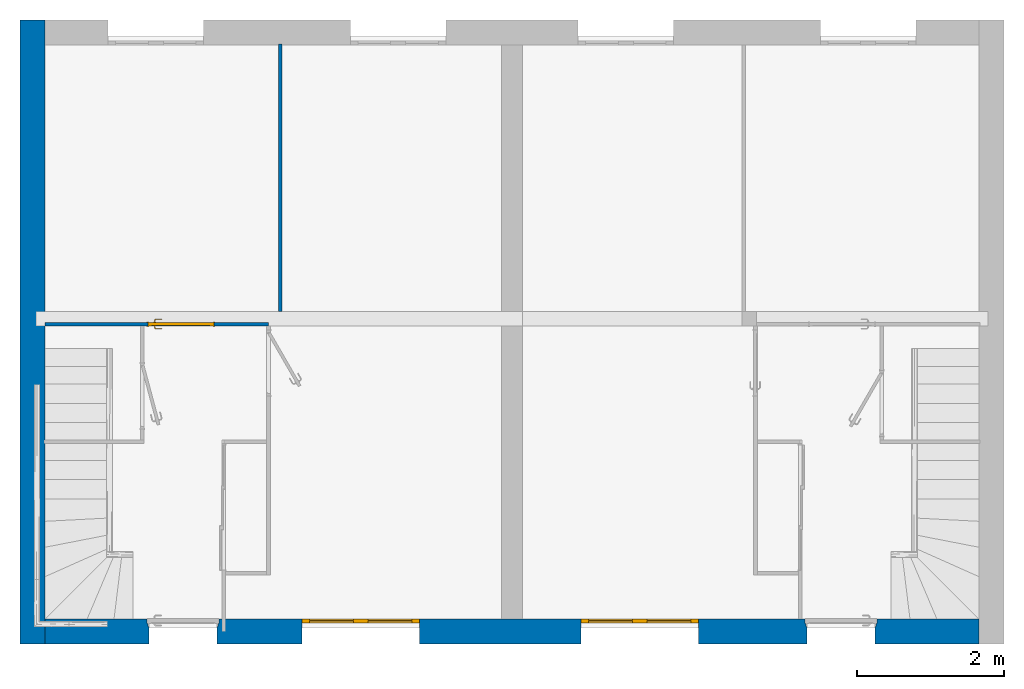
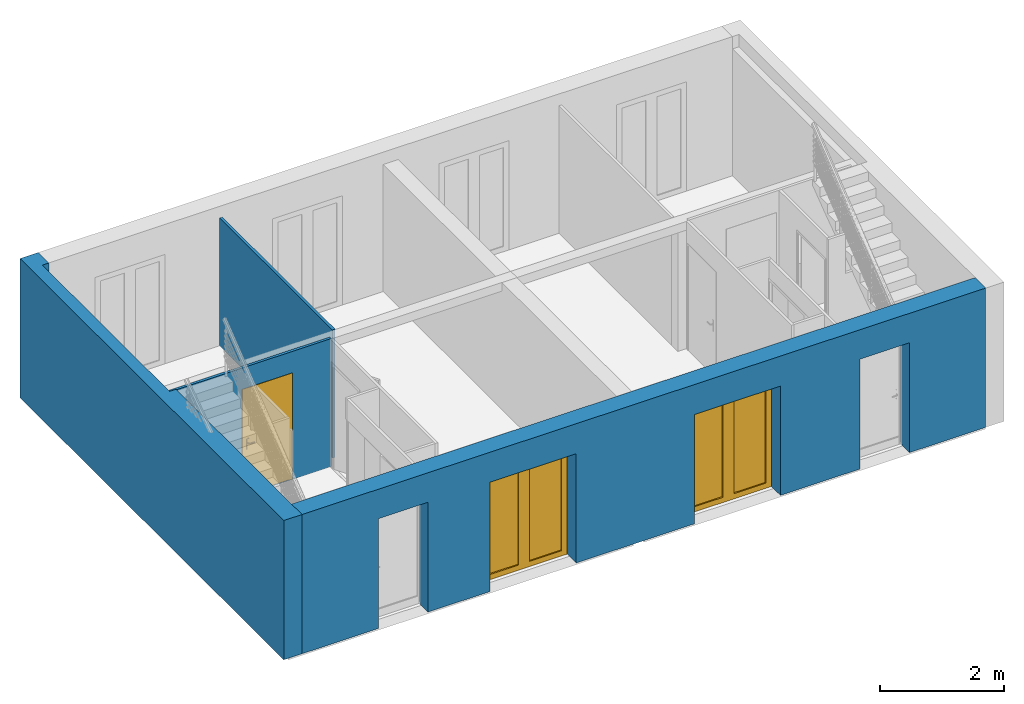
# One storey, part 2 of 9: 4 walls, 3 doors, 6 openings.
"""IFC2X3 building model written with IfcOpenShell, lengths in metres."""

from ifc_helpers import new_model, entity, si_unit, converted_unit, derived_unit, direction, frame, frame_2d, origin, origin_2d_with_axis, place, context, subcontext, project, spatial, polyline, rectangle, outline, extrude, faceted_brep, source, transform, mapped, material, material_list, layer, layer_set, layer_usage, type_object, type_shapes, element, fill, save


model = new_model("IFC2X3")

# Units and contexts
model_context = context("Model", 3, precision=1e-05, world=origin(), true_north=direction((6.12303176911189e-17, 1.0)))
body_context = subcontext(model_context, "Body", "Model", "MODEL_VIEW")
ifc_project = project(units=[si_unit("LENGTHUNIT", "METRE"), si_unit("AREAUNIT", "SQUARE_METRE"), si_unit("VOLUMEUNIT", "CUBIC_METRE"), converted_unit("PLANEANGLEUNIT", "DEGREE", entity("IfcRatioMeasure", 0.0174532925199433), si_unit("PLANEANGLEUNIT", "RADIAN"), dimensions=[0, 0, 0, 0, 0, 0, 0]), si_unit("MASSUNIT", "GRAM", prefix="KILO"), si_unit("TIMEUNIT", "SECOND"), si_unit("FREQUENCYUNIT", "HERTZ"), si_unit("THERMODYNAMICTEMPERATUREUNIT", "DEGREE_CELSIUS"), derived_unit("THERMALTRANSMITTANCEUNIT", [(si_unit("MASSUNIT", "GRAM", prefix="KILO"), 1), (si_unit("THERMODYNAMICTEMPERATUREUNIT", "KELVIN"), -1), (si_unit("TIMEUNIT", "SECOND"), -3)]), derived_unit("VOLUMETRICFLOWRATEUNIT", [(si_unit("LENGTHUNIT", "METRE"), 3), (si_unit("TIMEUNIT", "SECOND"), -1)]), si_unit("ELECTRICCURRENTUNIT", "AMPERE"), si_unit("ELECTRICVOLTAGEUNIT", "VOLT"), si_unit("POWERUNIT", "WATT"), si_unit("FORCEUNIT", "NEWTON", prefix="KILO"), si_unit("ILLUMINANCEUNIT", "LUX"), si_unit("LUMINOUSFLUXUNIT", "LUMEN"), si_unit("LUMINOUSINTENSITYUNIT", "CANDELA"), derived_unit("USERDEFINED", [(si_unit("MASSUNIT", "GRAM", prefix="KILO"), -1), (si_unit("LENGTHUNIT", "METRE"), -2), (si_unit("TIMEUNIT", "SECOND"), 3), (si_unit("LUMINOUSFLUXUNIT", "LUMEN"), 1)]), derived_unit("LINEARVELOCITYUNIT", [(si_unit("LENGTHUNIT", "METRE"), 1), (si_unit("TIMEUNIT", "SECOND"), -1)]), si_unit("PRESSUREUNIT", "PASCAL"), derived_unit("USERDEFINED", [(si_unit("LENGTHUNIT", "METRE"), -2), (si_unit("MASSUNIT", "GRAM", prefix="KILO"), 1), (si_unit("TIMEUNIT", "SECOND"), -2)])], contexts=[model_context])

# Site, building, storey
site_placement = place(None, origin())
site = spatial("IfcSite", under=ifc_project, at=site_placement, Name="Surface", CompositionType="ELEMENT")
building_placement = place(site_placement, origin())
building = spatial("IfcBuilding", under=site, at=building_placement, CompositionType="ELEMENT")
storey_placement = place(building_placement, origin())
storey = spatial("IfcBuildingStorey", under=building, at=storey_placement, Name="Rez de chaussée", CompositionType="ELEMENT", Elevation=0.0)

# Wall
ifc_material_1 = material(Name="Maçonnerie - Isolant(1)")
ifc_layer_1 = layer(ifc_material_1, 0.05)
ifc_layer_set_1 = layer_set([ifc_layer_1], Name="Mur de base:Int. plâtre 50 mm")
ifc_layer_usage_1 = layer_usage(ifc_layer_set_1, "AXIS2", "NEGATIVE", 0.025)
wall_type_1 = type_object("IfcWallType", Name="Mur de base:Int. plâtre 50 mm", PredefinedType="STANDARD", material=ifc_layer_set_1)
wall_1_placement = place(storey_placement, frame((-8.09108881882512, 5.35425578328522, -0.00999999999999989), z_axis=(0.0, 0.0, 1.0), x_axis=(0.0, -1.0, 0.0)))
element("IfcWallStandardCase", 1, at=wall_1_placement, inside=storey, type_object=wall_type_1, material=ifc_layer_usage_1, Name="Mur de base:Int. plâtre 50 mm", ObjectType="Mur de base:Int. plâtre 50 mm", context=body_context, shape_type="SweptSolid", body=[
    extrude(rectangle(XDim=3.64, YDim=0.0499999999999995, at=frame_2d((1.82, 0.0), x_axis=(-1.0, 0.0))), origin(), (0.0, 0.0, 1.0), 2.52),
])

# Wall, opening, door
ifc_layer_usage_2 = layer_usage(ifc_layer_set_1, "AXIS2", "NEGATIVE", 0.025)
wall_2_placement = place(storey_placement, frame((-11.2960888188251, 1.53925578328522, -0.00999999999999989)))
wall_2 = element("IfcWallStandardCase", 2, at=wall_2_placement, inside=storey, type_object=wall_type_1, material=ifc_layer_usage_2, Name="Mur de base:Int. plâtre 50 mm", ObjectType="Mur de base:Int. plâtre 50 mm", context=body_context, shape_type="SweptSolid", body=[
    extrude(rectangle(XDim=3.04499999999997, YDim=0.05, at=frame_2d((1.52249999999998, 0.0), x_axis=(-1.0, 0.0))), origin(), (0.0, 0.0, 1.0), 2.52),
])
opening_1_placement = place(wall_2_placement, frame((1.39999999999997, -0.025, 0.00999999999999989)))
opening_1 = element("IfcOpeningElement", 3, at=opening_1_placement, cuts=wall_2, Name="Int. Simple:PP (0.83m x 2.04m):1", ObjectType="Opening", context=body_context, shape_type="SweptSolid", body=[
    extrude(rectangle(XDim=2.075, YDim=0.9, at=frame_2d((1.0375, 0.45), x_axis=(1.0, 0.0))), frame((0.0, 0.0, 0.0), z_axis=(0.0, 1.0, 0.0), x_axis=(0.0, 0.0, 1.0)), (0.0, 0.0, 1.0), 0.05),
])
ifc_material_2 = material(Name="Finition Peinture - Blanc satiné")
ifc_material_3 = material(Name="Bois - Panneau de porte")
ifc_material_4 = material(Name="Bois - Cadre de porte")
ifc_material_list_1 = material_list([ifc_material_2, ifc_material_3, ifc_material_4])
ifc_material_list_2 = material_list([ifc_material_2, ifc_material_3, ifc_material_4])
door_style_1 = type_object("IfcDoorStyle", Name="PP (0.83m x 2.04m)", ConstructionType="NOTDEFINED", OperationType="SINGLE_SWING_RIGHT", ParameterTakesPrecedence=False, Sizeable=False, material=ifc_material_list_2)
shared_shape_1 = source(origin(), body_context, "Body", "Brep", [
    faceted_brep([(0.895000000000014, -0.00500000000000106, 0.870000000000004), (0.895000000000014, -0.00500000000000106, 1.08), (0.885352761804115, -0.00500000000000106, 1.08399601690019), (0.875000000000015, -0.00500000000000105, 1.08535898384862), (0.864647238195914, -0.00500000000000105, 1.08399601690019), (0.855000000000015, -0.00500000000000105, 1.08), (0.855000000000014, -0.00500000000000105, 0.870000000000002), (0.864647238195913, -0.00500000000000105, 0.866003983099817), (0.875000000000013, -0.00500000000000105, 0.86464101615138), (0.885352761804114, -0.00500000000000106, 0.866003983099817), (0.895000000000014, 0.0, 1.08), (0.895000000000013, 0.0, 0.870000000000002), (0.885352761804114, 0.0, 0.866003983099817), (0.875000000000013, 0.0, 0.86464101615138), (0.864647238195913, 0.0, 0.866003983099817), (0.855000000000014, 0.0, 0.870000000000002), (0.855000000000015, 0.0, 1.08), (0.864647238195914, 0.0, 1.08399601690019), (0.875000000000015, 0.0, 1.08535898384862), (0.885352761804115, 0.0, 1.08399601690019)], [[[0, 1, 2, 3, 4, 5, 6, 7, 8, 9]], [[10, 11, 12, 13, 14, 15, 16, 17, 18, 19]], [[9, 12, 11, 0]], [[8, 13, 12, 9]], [[7, 14, 13, 8]], [[7, 6, 15, 14]], [[15, 6, 5, 16]], [[4, 17, 16, 5]], [[3, 18, 17, 4]], [[2, 19, 18, 3]], [[2, 1, 10, 19]], [[11, 10, 1, 0]]]),
    faceted_brep([(0.895000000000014, 0.0399999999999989, 0.870000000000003), (0.895000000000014, 0.0399999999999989, 1.08), (0.885352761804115, 0.0399999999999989, 1.08399601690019), (0.875000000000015, 0.0399999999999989, 1.08535898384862), (0.864647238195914, 0.0399999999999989, 1.08399601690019), (0.855000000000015, 0.0399999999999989, 1.08), (0.855000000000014, 0.0399999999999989, 0.870000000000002), (0.864647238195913, 0.0399999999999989, 0.866003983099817), (0.875000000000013, 0.0399999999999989, 0.86464101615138), (0.885352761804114, 0.0399999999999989, 0.866003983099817), (0.875000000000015, 0.0449999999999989, 1.08535898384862), (0.885352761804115, 0.0449999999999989, 1.08399601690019), (0.895000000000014, 0.0449999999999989, 1.08), (0.895000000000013, 0.0449999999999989, 0.870000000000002), (0.885352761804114, 0.0449999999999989, 0.866003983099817), (0.875000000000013, 0.0449999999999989, 0.86464101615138), (0.864647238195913, 0.0449999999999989, 0.866003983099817), (0.855000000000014, 0.0449999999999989, 0.870000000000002), (0.855000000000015, 0.0449999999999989, 1.08), (0.864647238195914, 0.0449999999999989, 1.08399601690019)], [[[0, 1, 2, 3, 4, 5, 6, 7, 8, 9]], [[10, 11, 12, 13, 14, 15, 16, 17, 18, 19]], [[4, 19, 18, 5]], [[3, 10, 19, 4]], [[2, 11, 10, 3]], [[2, 1, 12, 11]], [[13, 12, 1, 0]], [[9, 14, 13, 0]], [[8, 15, 14, 9]], [[7, 16, 15, 8]], [[7, 6, 17, 16]], [[17, 6, 5, 18]]]),
    faceted_brep([(0.872974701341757, -0.0050000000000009, 1.00778044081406), (0.877025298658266, -0.00500000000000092, 1.00778044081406), (0.881000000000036, -0.00500000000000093, 1.00699999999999), (0.881000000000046, -0.00500000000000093, 0.992999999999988), (0.877025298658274, -0.00500000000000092, 0.99221955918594), (0.872974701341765, -0.0050000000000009, 0.992219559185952), (0.868999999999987, -0.00500000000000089, 0.993000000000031), (0.868999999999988, -0.00500000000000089, 1.007), (0.877025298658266, -0.0310045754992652, 1.00778044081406), (0.881000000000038, -0.0326509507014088, 1.007), (0.872974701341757, -0.0293267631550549, 1.00778044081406), (0.859298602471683, -0.0430028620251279, 1.00778044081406), (0.860976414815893, -0.0470534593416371, 1.00778044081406), (0.868999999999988, -0.0276803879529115, 1.007), (0.868999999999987, -0.0276803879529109, 0.993000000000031), (0.872974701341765, -0.0293267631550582, 0.992219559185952), (0.877025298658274, -0.0310045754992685, 0.99221955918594), (0.860976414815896, -0.047053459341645, 0.99221955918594), (0.859298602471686, -0.0430028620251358, 0.992219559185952), (0.881000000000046, -0.0326509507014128, 0.992999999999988), (0.862622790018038, -0.0510281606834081, 1.007), (0.85765222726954, -0.0390281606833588, 1.007), (0.857652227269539, -0.0390281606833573, 0.993000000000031), (0.862622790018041, -0.0510281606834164, 0.992999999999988), (0.774981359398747, -0.0510281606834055, 1.007), (0.774981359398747, -0.0470534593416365, 1.00778044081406), (0.774981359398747, -0.0430028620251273, 1.00778044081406), (0.774981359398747, -0.0390281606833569, 1.00699999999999), (0.774981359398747, -0.0390281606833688, 0.993000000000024), (0.774981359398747, -0.0430028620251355, 0.992219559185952), (0.774981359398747, -0.0470534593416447, 0.99221955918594), (0.774981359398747, -0.0510281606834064, 0.992999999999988), (0.81713998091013, -0.045028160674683, 1.0078786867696), (0.822692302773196, -0.051028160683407, 1.007), (0.816316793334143, -0.039028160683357, 1.007), (0.816316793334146, -0.0390281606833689, 0.993000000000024), (0.817139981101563, -0.0450281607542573, 0.992121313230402), (0.822692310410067, -0.0510281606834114, 0.992999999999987)], [[[0, 1, 2, 3, 4, 5, 6, 7]], [[2, 1, 8, 9]], [[1, 0, 10, 11, 12, 8]], [[0, 7, 13, 10]], [[14, 13, 7, 6]], [[5, 15, 14, 6]], [[5, 4, 16, 17, 18, 15]], [[3, 19, 16, 4]], [[9, 19, 3, 2]], [[9, 8, 12, 20]], [[10, 13, 21, 11]], [[22, 21, 13, 14]], [[14, 15, 18, 22]], [[16, 19, 23, 17]], [[20, 23, 19, 9]], [[24, 25, 26, 27, 28, 29, 30, 31]], [[32, 25, 33]], [[33, 25, 24]], [[33, 20, 12]], [[11, 34, 32]], [[34, 11, 21]], [[27, 26, 34]], [[32, 26, 25]], [[32, 34, 26]], [[32, 33, 12]], [[11, 32, 12]], [[21, 22, 35, 28, 27, 34]], [[36, 29, 35]], [[30, 36, 37]], [[18, 35, 22]], [[29, 28, 35]], [[30, 37, 31]], [[37, 17, 23]], [[36, 17, 37]], [[36, 18, 17]], [[36, 35, 18]], [[29, 36, 30]], [[23, 20, 33, 24, 31, 37]]]),
    faceted_brep([(0.872974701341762, 0.0449999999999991, 0.992219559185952), (0.877025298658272, 0.0449999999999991, 0.99221955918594), (0.881000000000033, 0.044999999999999, 0.992999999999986), (0.881000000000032, 0.044999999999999, 1.007), (0.877025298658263, 0.0449999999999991, 1.00778044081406), (0.872974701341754, 0.0449999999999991, 1.00778044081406), (0.868999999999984, 0.0449999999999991, 1.007), (0.868999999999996, 0.0449999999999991, 0.993000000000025), (0.868999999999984, 0.067485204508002, 1.007), (0.868999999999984, 0.0674852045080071, 0.993000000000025), (0.872974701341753, 0.0691315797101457, 1.00778044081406), (0.877025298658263, 0.070809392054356, 1.00778044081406), (0.860838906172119, 0.0869957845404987, 1.00778044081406), (0.859161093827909, 0.0829451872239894, 1.00778044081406), (0.881000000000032, 0.0724557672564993, 1.007), (0.881000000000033, 0.0724557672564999, 0.992999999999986), (0.877025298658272, 0.0708093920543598, 0.99221955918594), (0.872974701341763, 0.0691315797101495, 0.992219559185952), (0.859161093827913, 0.0829451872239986, 0.992219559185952), (0.860838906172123, 0.0869957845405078, 0.99221955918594), (0.857514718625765, 0.0789704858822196, 1.007), (0.857514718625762, 0.0789704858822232, 0.993000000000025), (0.862485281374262, 0.0909704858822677, 1.007), (0.862485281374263, 0.0909704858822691, 0.992999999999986), (0.77495421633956, 0.0829451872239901, 1.00778044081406), (0.77495421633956, 0.0869957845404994, 1.00778044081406), (0.77495421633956, 0.0909704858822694, 1.007), (0.77495421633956, 0.0909704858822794, 0.992999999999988), (0.77495421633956, 0.086995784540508, 0.99221955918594), (0.77495421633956, 0.0829451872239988, 0.992219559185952), (0.77495421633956, 0.0789704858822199, 0.993000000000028), (0.77495421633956, 0.0789704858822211, 1.007), (0.816234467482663, 0.0789704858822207, 1.007), (0.816234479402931, 0.0789704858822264, 0.993000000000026), (0.817057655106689, 0.0849704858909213, 1.0078786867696), (0.822554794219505, 0.0909704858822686, 1.007), (0.822554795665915, 0.0909704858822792, 0.992999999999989), (0.817057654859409, 0.0849704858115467, 0.992121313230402)], [[[0, 1, 2, 3, 4, 5, 6, 7]], [[8, 9, 7, 6]], [[5, 10, 8, 6]], [[5, 4, 11, 12, 13, 10]], [[3, 14, 11, 4]], [[14, 3, 2, 15]], [[2, 1, 16, 15]], [[1, 0, 17, 18, 19, 16]], [[0, 7, 9, 17]], [[20, 21, 9, 8]], [[8, 10, 13, 20]], [[14, 22, 12, 11]], [[23, 22, 14, 15]], [[15, 16, 19, 23]], [[17, 9, 21, 18]], [[24, 25, 26, 27, 28, 29, 30, 31]], [[21, 20, 32, 31, 30, 33]], [[34, 24, 32]], [[25, 34, 35]], [[13, 32, 20]], [[24, 31, 32]], [[25, 35, 26]], [[35, 12, 22]], [[34, 12, 35]], [[34, 13, 12]], [[34, 32, 13]], [[24, 34, 25]], [[22, 23, 36, 27, 26, 35]], [[37, 28, 36]], [[36, 28, 27]], [[36, 23, 19]], [[18, 33, 37]], [[33, 18, 21]], [[30, 29, 33]], [[37, 29, 28]], [[37, 33, 29]], [[37, 36, 19]], [[18, 37, 19]]]),
    faceted_brep([(0.935000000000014, 0.04, 2.04), (0.935000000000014, 0.04, 0.0), (0.105000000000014, 0.04, 0.0), (0.105000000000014, 0.04, 2.04), (0.935000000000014, 0.0, 2.04), (0.105000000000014, 0.0, 2.04), (0.105000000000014, 0.0, 0.0), (0.935000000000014, 0.0, 0.0)], [[[0, 1, 2, 3]], [[4, 5, 6, 7]], [[3, 5, 4, 0]], [[2, 6, 5, 3]], [[1, 7, 6, 2]], [[0, 4, 7, 1]]]),
    faceted_brep([(0.970000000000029, 0.0, 0.0), (0.935000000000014, 0.0, 0.0), (0.935000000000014, 0.040000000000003, 0.0), (0.920000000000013, 0.040000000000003, 0.0), (0.920000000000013, 0.050000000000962, 0.0), (0.970000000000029, 0.050000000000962, 0.0), (0.970000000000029, 0.050000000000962, 2.07500000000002), (0.970000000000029, 0.0, 2.07500000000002), (0.920000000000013, 0.050000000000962, 2.025), (0.120000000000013, 0.050000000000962, 2.025), (0.120000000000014, 0.050000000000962, 0.0), (0.0699999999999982, 0.050000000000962, 0.0), (0.0699999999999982, 0.050000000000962, 2.07500000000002), (0.920000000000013, 0.040000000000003, 2.025), (0.935000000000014, 0.040000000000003, 2.04), (0.105000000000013, 0.040000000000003, 2.04), (0.105000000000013, 0.040000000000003, 0.0), (0.120000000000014, 0.040000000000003, 0.0), (0.120000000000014, 0.040000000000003, 2.025), (0.935000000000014, 0.0, 2.04), (0.069999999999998, 0.0, 2.07500000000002), (0.0699999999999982, 0.0, 0.0), (0.105000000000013, 0.0, 0.0), (0.105000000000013, 0.0, 2.04)], [[[0, 1, 2, 3, 4, 5]], [[5, 6, 7, 0]], [[4, 8, 9, 10, 11, 12, 6, 5]], [[3, 13, 8, 4]], [[2, 14, 15, 16, 17, 18, 13, 3]], [[1, 19, 14, 2]], [[0, 7, 20, 21, 22, 23, 19, 1]], [[12, 11, 21, 20]], [[21, 11, 10, 17, 16, 22]], [[18, 17, 10, 9]], [[23, 22, 16, 15]], [[6, 12, 20, 7]], [[13, 18, 9, 8]], [[19, 23, 15, 14]]]),
    faceted_brep([(0.955000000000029, 0.050000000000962, 0.0), (0.955000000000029, 0.055000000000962, 0.0), (0.985000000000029, 0.055000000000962, 0.0), (0.985000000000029, 0.050000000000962, 0.0), (0.985000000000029, 0.050000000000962, 2.09000000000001), (0.0550000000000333, 0.050000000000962, 2.09000000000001), (0.0550000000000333, 0.050000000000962, 0.0), (0.0850000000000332, 0.050000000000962, 0.0), (0.0850000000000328, 0.050000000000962, 2.06000000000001), (0.955000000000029, 0.050000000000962, 2.06000000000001), (0.985000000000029, 0.055000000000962, 2.09000000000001), (0.955000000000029, 0.055000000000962, 2.06000000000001), (0.0850000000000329, 0.055000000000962, 2.06000000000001), (0.0850000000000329, 0.055000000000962, 0.0), (0.055000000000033, 0.055000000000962, 0.0), (0.0550000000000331, 0.055000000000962, 2.09000000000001)], [[[0, 1, 2, 3]], [[3, 4, 5, 6, 7, 8, 9, 0]], [[2, 10, 4, 3]], [[1, 11, 12, 13, 14, 15, 10, 2]], [[0, 9, 11, 1]], [[7, 6, 14, 13]], [[8, 7, 13, 12]], [[15, 14, 6, 5]], [[10, 15, 5, 4]], [[9, 8, 12, 11]]]),
    faceted_brep([(0.985000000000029, -0.005, 0.0), (0.985000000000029, -0.005, 2.09000000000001), (0.0550000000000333, -0.005, 2.09000000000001), (0.0550000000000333, -0.005, 0.0), (0.0850000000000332, -0.005, 0.0), (0.0850000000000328, -0.005, 2.06000000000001), (0.955000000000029, -0.005, 2.06000000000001), (0.955000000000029, -0.005, 0.0), (0.985000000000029, 0.0, 0.0), (0.985000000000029, 0.0, 2.09000000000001), (0.955000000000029, 0.0, 0.0), (0.955000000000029, 0.0, 2.06000000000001), (0.0850000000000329, 0.0, 2.06000000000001), (0.0850000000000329, 0.0, 0.0), (0.055000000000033, 0.0, 0.0), (0.0550000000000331, 0.0, 2.09000000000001)], [[[0, 1, 2, 3, 4, 5, 6, 7]], [[8, 9, 1, 0]], [[10, 11, 12, 13, 14, 15, 9, 8]], [[7, 6, 11, 10]], [[5, 4, 13, 12]], [[15, 14, 3, 2]], [[9, 15, 2, 1]], [[6, 5, 12, 11]], [[4, 3, 14, 13]], [[7, 10, 8, 0]]]),
])
type_shapes(door_style_1, [shared_shape_1])
door_1_placement = place(opening_1_placement, frame((0.970000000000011, 0.0499999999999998, 0.0), z_axis=(0.0, 0.0, 1.0), x_axis=(-1.0, 0.0, 0.0)))
door_1 = element("IfcDoor", 4, at=door_1_placement, inside=storey, type_object=door_style_1, material=ifc_material_list_1, Name="Int. Simple:PP (0.83m x 2.04m)", ObjectType="PP (0.83m x 2.04m)", OverallHeight=2.075, OverallWidth=0.9, context=body_context, shape_type="MappedRepresentation", body=[
    mapped(shared_shape_1, transform((0.0, 0.0, 0.0), scale=1.0)),
])
fill(opening_1, door_1)

# Wall, opening
ifc_material_5 = material(Name="Maçonnerie - Enduit")
ifc_layer_2 = layer(ifc_material_5, 0.02)
ifc_material_6 = material(Name="Maçonnerie - Parpaing")
ifc_layer_3 = layer(ifc_material_6, 0.2)
ifc_material_7 = material(Name="Maçonnerie - Isolant")
ifc_layer_4 = layer(ifc_material_7, 0.11)
ifc_material_8 = material(Name="Maçonnerie - Isolant 1")
ifc_layer_5 = layer(ifc_material_8, 0.01)
ifc_layer_set_2 = layer_set([ifc_layer_2, ifc_layer_3, ifc_layer_4, ifc_layer_5], Name="Mur de base:Mur de base Ext. Parpaing 20 + Isolant 12")
ifc_layer_usage_3 = layer_usage(ifc_layer_set_2, "AXIS2", "NEGATIVE", 0.17)
wall_type_2 = type_object("IfcWallType", Name="Mur de base:Mur de base Ext. Parpaing 20 + Isolant 12", PredefinedType="STANDARD", material=ifc_layer_set_2)
wall_3_placement = place(storey_placement, frame((-11.4660888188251, -2.81574421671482, 0.0), z_axis=(0.0, 0.0, 1.0), x_axis=(0.0, 1.0, 0.0)))
wall_3 = element("IfcWallStandardCase", 5, at=wall_3_placement, inside=storey, type_object=wall_type_2, material=ifc_layer_usage_3, Name="Mur de base:Mur de base Ext. Parpaing 20 + Isolant 12", ObjectType="Mur de base:Mur de base Ext. Parpaing 20 + Isolant 12", context=body_context, shape_type="SweptSolid", body=[
    extrude(rectangle(XDim=8.50000000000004, YDim=0.340000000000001, at=frame_2d((4.25000000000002, 0.0), x_axis=(-1.0, 0.0))), origin(), (0.0, 0.0, 1.0), 2.74),
])
opening_2_placement = place(wall_3_placement, frame((0.340000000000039, 0.170000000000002, 2.498)))
element("IfcOpeningElement", 6, at=opening_2_placement, cuts=wall_3, Name="Mur de base:Mur de base Ext. Parpaing 20 + Isolant 12", ObjectType="Recess", context=body_context, shape_type="Brep", body=[
    faceted_brep([(7.82, 0.0, 8.83990557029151), (0.0, 0.0, 8.83990557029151), (0.0, -0.340000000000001, 8.83990557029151), (3.72171265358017, -0.340000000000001, 8.83990557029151), (3.72171265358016, -0.22, 8.83990557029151), (7.82, -0.22, 8.83990557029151), (7.82, -0.22, 0.242000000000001), (3.72171265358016, -0.22, 0.242000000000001), (3.72171265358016, -0.340000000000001, 0.242000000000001), (0.0, -0.340000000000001, 0.242000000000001), (0.0, 0.0, 0.242000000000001), (7.82, 0.0, 0.242000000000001), (3.72171265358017, -0.340000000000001, 0.0), (3.72171265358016, -0.22, 0.0), (3.72171265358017, -0.22, 8.59790557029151), (7.82, -0.22, 8.59790557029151), (7.82, -0.340000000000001, 8.59790557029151), (7.82, -0.340000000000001, 0.0), (7.82, -0.22, 0.0), (3.72171265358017, -0.340000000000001, 8.59790557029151)], [[[0, 1, 2, 3, 4, 5]], [[6, 7, 8, 9, 10, 11]], [[11, 10, 1, 0]], [[12, 8, 7, 13]], [[4, 14, 15, 5]], [[5, 15, 16, 17, 18, 6, 11, 0]], [[16, 15, 14, 19]], [[17, 12, 13, 18]], [[13, 7, 6, 18]], [[19, 3, 2, 9, 8, 12, 17, 16]], [[1, 10, 9, 2]], [[3, 19, 14, 4]]]),
])

# Wall, openings, doors
ifc_layer_usage_4 = layer_usage(ifc_layer_set_2, "AXIS2", "NEGATIVE", 0.17)
wall_4_placement = place(storey_placement, frame((1.42391118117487, -2.64574421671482, 0.0), z_axis=(0.0, 0.0, 1.0), x_axis=(-1.0, 0.0, 0.0)))
wall_4 = element("IfcWallStandardCase", 7, at=wall_4_placement, inside=storey, type_object=wall_type_2, material=ifc_layer_usage_4, Name="Mur de base:Mur de base Ext. Parpaing 20 + Isolant 12", ObjectType="Mur de base:Mur de base Ext. Parpaing 20 + Isolant 12", context=body_context, shape_type="SweptSolid", body=[
    extrude(rectangle(XDim=12.72, YDim=0.34, at=frame_2d((6.35999999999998, 0.0), x_axis=(-1.0, 0.0))), origin(), (0.0, 0.0, 1.0), 2.74),
])
opening_3_placement = place(wall_4_placement, frame((11.33, 0.470000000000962, 0.0), z_axis=(0.0, 0.0, 1.0), x_axis=(-1.0, 0.0, 0.0)))
element("IfcOpeningElement", 8, at=opening_3_placement, cuts=wall_4, Name="Mur de base:Mur de base Ext. Parpaing 20 + Isolant 12", ObjectType="Opening", context=body_context, shape_type="Brep", body=[
    faceted_brep([(0.950000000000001, 0.940000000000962, 2.15999999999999), (0.0300000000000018, 0.940000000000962, 2.15999999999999), (0.0300000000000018, 0.640000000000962, 2.15999999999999), (0.950000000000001, 0.640000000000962, 2.15999999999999), (0.950000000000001, 0.0, 0.0), (0.0300000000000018, 0.0, 0.0), (0.0300000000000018, 0.54000000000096, 0.0), (0.0150000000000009, 0.540000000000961, 0.0), (0.0150000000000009, 0.58300000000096, 0.0), (0.0, 0.58300000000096, 0.0), (0.0, 0.640000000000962, 0.0), (0.0300000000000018, 0.640000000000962, 0.0), (0.0300000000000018, 0.940000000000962, 0.0), (0.950000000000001, 0.940000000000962, 0.0), (0.950000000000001, 0.640000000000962, 0.0), (0.979999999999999, 0.640000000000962, 0.0), (0.979999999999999, 0.58300000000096, 0.0), (0.964999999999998, 0.58300000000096, 0.0), (0.964999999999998, 0.540000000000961, 0.0), (0.949999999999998, 0.540000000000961, 0.0), (0.950000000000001, 0.0, 2.15999999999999), (0.0300000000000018, 0.0, 2.15999999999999), (0.0300000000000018, 0.540000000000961, 2.15999999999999), (0.979999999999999, 0.58300000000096, 2.19), (0.0, 0.58300000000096, 2.19), (0.0150000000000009, 0.58300000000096, 2.17499999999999), (0.964999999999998, 0.58300000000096, 2.17499999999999), (0.0, 0.640000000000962, 2.19), (0.979999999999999, 0.640000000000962, 2.19), (0.0150000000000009, 0.54000000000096, 2.17499999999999), (0.950000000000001, 0.540000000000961, 2.15999999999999), (0.964999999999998, 0.54000000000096, 2.17499999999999)], [[[0, 1, 2, 3]], [[4, 5, 6, 7, 8, 9, 10, 11, 12, 13, 14, 15, 16, 17, 18, 19]], [[13, 0, 3, 14]], [[20, 21, 5, 4]], [[5, 21, 22, 6]], [[1, 0, 13, 12]], [[16, 23, 24, 9, 8, 25, 26, 17]], [[11, 10, 27, 28, 15, 14, 3, 2]], [[10, 9, 24, 27]], [[24, 23, 28, 27]], [[23, 16, 15, 28]], [[8, 7, 29, 25]], [[7, 6, 22, 30, 19, 18, 31, 29]], [[25, 29, 31, 26]], [[31, 18, 17, 26]], [[1, 12, 11, 2]], [[20, 4, 19, 30]], [[21, 20, 30, 22]]]),
])
opening_4_placement = place(wall_4_placement, frame((9.21999999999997, 0.169999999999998, 0.0)))
opening_4 = element("IfcOpeningElement", 9, at=opening_4_placement, cuts=wall_4, Name="Double-Glass 1_no trim:PF 1.60 x 2.15:1", ObjectType="Opening", context=body_context, shape_type="SweptSolid", body=[
    extrude(rectangle(XDim=1.6, YDim=2.15, at=frame_2d((1.075, 0.799999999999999), x_axis=(0.0, 1.0))), frame((0.0, 0.0, 0.0), z_axis=(0.0, -1.0, 0.0), x_axis=(0.0, 0.0, 1.0)), (0.0, 0.0, 1.0), 0.34),
])
opening_5_placement = place(wall_4_placement, frame((5.41999999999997, 0.169999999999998, 0.0)))
opening_5 = element("IfcOpeningElement", 10, at=opening_5_placement, cuts=wall_4, Name="Double-Glass 1_no trim:PF 1.60 x 2.15:1", ObjectType="Opening", context=body_context, shape_type="SweptSolid", body=[
    extrude(rectangle(XDim=1.6, YDim=2.15, at=frame_2d((1.075, 0.8), x_axis=(0.0, 1.0))), frame((0.0, 0.0, 0.0), z_axis=(0.0, -1.0, 0.0), x_axis=(0.0, 0.0, 1.0)), (0.0, 0.0, 1.0), 0.34),
])
opening_6_placement = place(wall_4_placement, frame((2.37000000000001, 0.470000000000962, 0.0), z_axis=(0.0, 0.0, 1.0), x_axis=(-1.0, 0.0, 0.0)))
element("IfcOpeningElement", 11, at=opening_6_placement, cuts=wall_4, Name="Mur de base:Mur de base Ext. Parpaing 20 + Isolant 12", ObjectType="Opening", context=body_context, shape_type="Brep", body=[
    faceted_brep([(0.0299999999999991, 0.940000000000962, 2.15999999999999), (0.0299999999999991, 0.640000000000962, 2.15999999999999), (0.949999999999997, 0.640000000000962, 2.15999999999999), (0.949999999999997, 0.940000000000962, 2.15999999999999), (0.0299999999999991, 0.0, 0.0), (0.0299999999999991, 0.540000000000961, 0.0), (0.0150000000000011, 0.540000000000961, 0.0), (0.0150000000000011, 0.58300000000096, 0.0), (0.0, 0.58300000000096, 0.0), (0.0, 0.640000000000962, 0.0), (0.0300000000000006, 0.640000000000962, 0.0), (0.0299999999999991, 0.940000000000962, 0.0), (0.949999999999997, 0.940000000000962, 0.0), (0.949999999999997, 0.640000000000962, 0.0), (0.979999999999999, 0.640000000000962, 0.0), (0.979999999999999, 0.58300000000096, 0.0), (0.964999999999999, 0.58300000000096, 0.0), (0.964999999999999, 0.540000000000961, 0.0), (0.949999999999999, 0.540000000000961, 0.0), (0.949999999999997, 0.0, 0.0), (0.0299999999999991, 0.0, 2.15999999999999), (0.0299999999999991, 0.540000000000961, 2.15999999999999), (0.949999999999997, 0.0, 2.15999999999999), (0.0150000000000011, 0.58300000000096, 2.17499999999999), (0.964999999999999, 0.58300000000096, 2.17499999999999), (0.979999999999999, 0.58300000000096, 2.19), (0.0, 0.58300000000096, 2.19), (0.0, 0.640000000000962, 2.19), (0.98, 0.640000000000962, 2.19), (0.964999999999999, 0.54000000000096, 2.17499999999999), (0.0150000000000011, 0.54000000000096, 2.17499999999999), (0.949999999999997, 0.540000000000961, 2.15999999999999)], [[[0, 1, 2, 3]], [[4, 5, 6, 7, 8, 9, 10, 11, 12, 13, 14, 15, 16, 17, 18, 19]], [[20, 21, 5, 4]], [[20, 4, 19, 22]], [[3, 2, 13, 12]], [[3, 12, 11, 0]], [[8, 7, 23, 24, 16, 15, 25, 26]], [[13, 2, 1, 10, 9, 27, 28, 14]], [[14, 28, 25, 15]], [[25, 28, 27, 26]], [[26, 27, 9, 8]], [[16, 24, 29, 17]], [[17, 29, 30, 6, 5, 21, 31, 18]], [[24, 23, 30, 29]], [[30, 23, 7, 6]], [[19, 18, 31, 22]], [[11, 10, 1, 0]], [[22, 31, 21, 20]]]),
])
ifc_material_9 = material(Name="Glass")
ifc_material_10 = material(Name="PVC - Blanc")
ifc_material_list_3 = material_list([ifc_material_9, ifc_material_10])
ifc_material_list_4 = material_list([ifc_material_9, ifc_material_10])
door_style_2 = type_object("IfcDoorStyle", Name="PF 1.60 x 2.15", ConstructionType="NOTDEFINED", OperationType="DOUBLE_DOOR_SINGLE_SWING", ParameterTakesPrecedence=False, Sizeable=False, material=ifc_material_list_4)
shared_shape_2 = source(origin(), body_context, "Body", "SweptSolid", [
    extrude(rectangle(XDim=0.00714374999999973, YDim=0.5968, at=frame_2d((0.0, -2.77555756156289e-17), x_axis=(1.0, 0.0))), frame((1.2, 0.318171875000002, 0.1016), z_axis=(0.0, 0.0, 1.0), x_axis=(0.0, 1.0, 0.0)), (0.0, 0.0, 1.0), 1.9468),
    extrude(rectangle(XDim=0.00714374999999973, YDim=0.5968, at=origin_2d_with_axis()), frame((0.400000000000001, 0.318171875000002, 0.1016), z_axis=(0.0, 0.0, 1.0), x_axis=(0.0, 1.0, 0.0)), (0.0, 0.0, 1.0), 1.9468),
    extrude(outline(polyline([(-1.075, -0.800000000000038), (1.075, -0.800000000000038), (1.075, 0.800000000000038), (-1.075, 0.800000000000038), (-1.075, -0.800000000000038)]), holes=[polyline([(-0.973399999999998, 0.101600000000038), (-0.973399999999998, 0.698400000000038), (0.973399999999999, 0.698400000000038), (0.973399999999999, 0.101600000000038), (-0.973399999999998, 0.101600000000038)]), polyline([(-0.973399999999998, -0.698399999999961), (-0.973399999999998, -0.101599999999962), (0.973399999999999, -0.101599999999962), (0.973399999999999, -0.698399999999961), (-0.973399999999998, -0.698399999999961)])]), frame((0.800000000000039, 0.289200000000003, 1.075), z_axis=(0.0, 1.0, 0.0), x_axis=(0.0, 0.0, -1.0)), (0.0, 0.0, 1.0), 0.0508),
])
type_shapes(door_style_2, [shared_shape_2])
door_2_placement = place(opening_4_placement, frame((0.0, 0.0, 0.0), z_axis=(0.0, 0.0, 1.0), x_axis=(-1.0, 0.0, 0.0)))
door_2 = element("IfcDoor", 12, at=door_2_placement, inside=storey, type_object=door_style_2, material=ifc_material_list_3, Name="Double-Glass 1_no trim:PF 1.60 x 2.15", ObjectType="PF 1.60 x 2.15", OverallHeight=2.15, OverallWidth=1.6, context=body_context, shape_type="MappedRepresentation", body=[
    mapped(shared_shape_2, transform((0.0, 0.0, 0.0), scale=1.0)),
])
fill(opening_4, door_2)
ifc_material_list_5 = material_list([ifc_material_9, ifc_material_10])
door_3_placement = place(opening_5_placement, frame((0.0, 0.0, 0.0), z_axis=(0.0, 0.0, 1.0), x_axis=(-1.0, 0.0, 0.0)))
door_3 = element("IfcDoor", 13, at=door_3_placement, inside=storey, type_object=door_style_2, material=ifc_material_list_5, Name="Double-Glass 1_no trim:PF 1.60 x 2.15", ObjectType="PF 1.60 x 2.15", OverallHeight=2.15, OverallWidth=1.6, context=body_context, shape_type="MappedRepresentation", body=[
    mapped(shared_shape_2, transform((0.0, 0.0, 0.0), scale=1.0)),
])
fill(opening_5, door_3)

save(model, "model.ifc")
